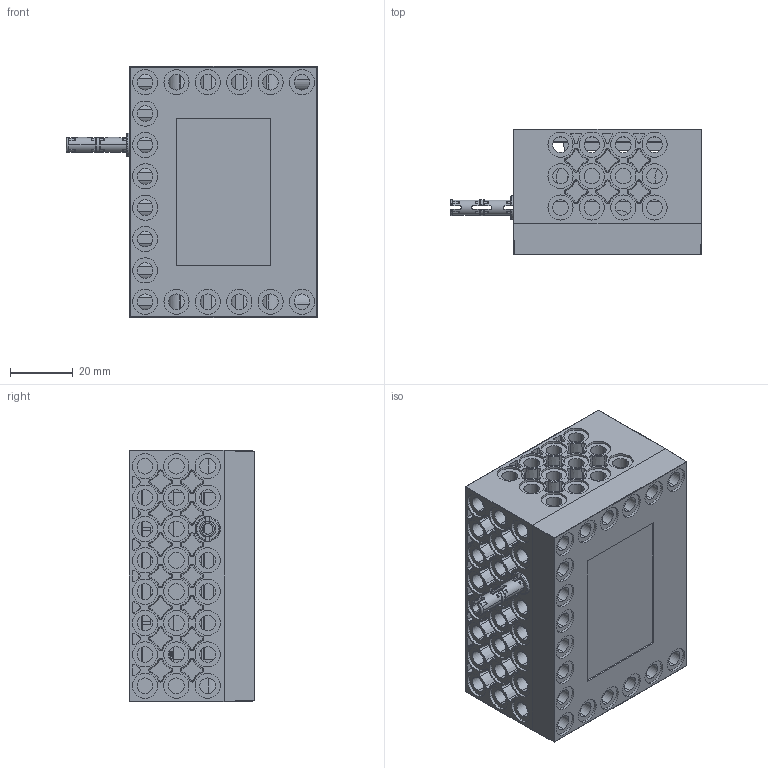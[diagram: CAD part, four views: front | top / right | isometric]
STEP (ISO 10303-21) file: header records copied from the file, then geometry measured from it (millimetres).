
FILE_DESCRIPTION((''),'2;1');
FILE_NAME('BABETA_ASM','2019-06-03T',('Administrator'),(''),'PRO/ENGINEER BY PARAMETRIC TECHNOLOGY CORPORATION, 2007450','PRO/ENGINEER BY PARAMETRIC TECHNOLOGY CORPORATION, 2007450','');
FILE_SCHEMA(('AUTOMOTIVE_DESIGN_CC2 { 1 2 10303 214 -1 1 5 2 }'));
Length unit declared in the file: millimetre
Products named in the file (29): BACA_1_27LAST_VERSION; BACA_2_25LAST_VERSION; BACA_ASM_2LAST_VERSION_ASM; BACA_3; SOLID1; SOLID2; SOLID3; SOLID4; SOLID5; SOLID6; SOLID7; SOLID8; SOLID9; SOLID10; SOLID11; SOLID12; SOLID13; SOLID14; SOLID15; SOLID16; SOLID17; SOLID18; SOLID26; BATTERY_HOLDER_WZY-148-1_ASM; BATTERY; BATTERY_HOLDER_WZY-148-1_WITH_C_ASM; BACA_ASSEMBLY_ASM_1LAST_VERSION_ASM; CP2X1; BABETA_ASM
Assembly tree (33 placements, depth 5):
  BABETA_ASM
    BACA_ASSEMBLY_ASM_1LAST_VERSION_ASM
      BACA_ASM_2LAST_VERSION_ASM
        BACA_1_27LAST_VERSION
        BACA_2_25LAST_VERSION
      BACA_3
      BATTERY_HOLDER_WZY-148-1_WITH_C_ASM
        BATTERY_HOLDER_WZY-148-1_ASM
          SOLID1
          SOLID2
          SOLID3
          SOLID4
          SOLID5
          SOLID6
          SOLID7
          SOLID8
          SOLID9
          SOLID10
          SOLID11
          SOLID12
          SOLID13
          SOLID14
          SOLID15
          SOLID16
          SOLID17
          SOLID18
          SOLID26
        BATTERY  x6
    CP2X1
Bounding box: 80.1 x 40 x 80 mm (x, y, z)
Volume: 68597.4 mm3; surface area: 87529.9 mm2
Topology: 16 solids, 16 shells, 1875 faces, 5213 edges, 3487 vertices
Faces by surface type: plane 757, cylinder 731, cone 222, bspline 83, torus 45, sphere 37
Entity records: 92650 total; most frequent: CARTESIAN_POINT 29650, DIRECTION 10566, ORIENTED_EDGE 10418, EDGE_CURVE 5209, PRESENTATION_STYLE_ASSIGNMENT 4245, STYLED_ITEM 4244, CURVE_STYLE 4235, AXIS2_PLACEMENT_3D 3924
